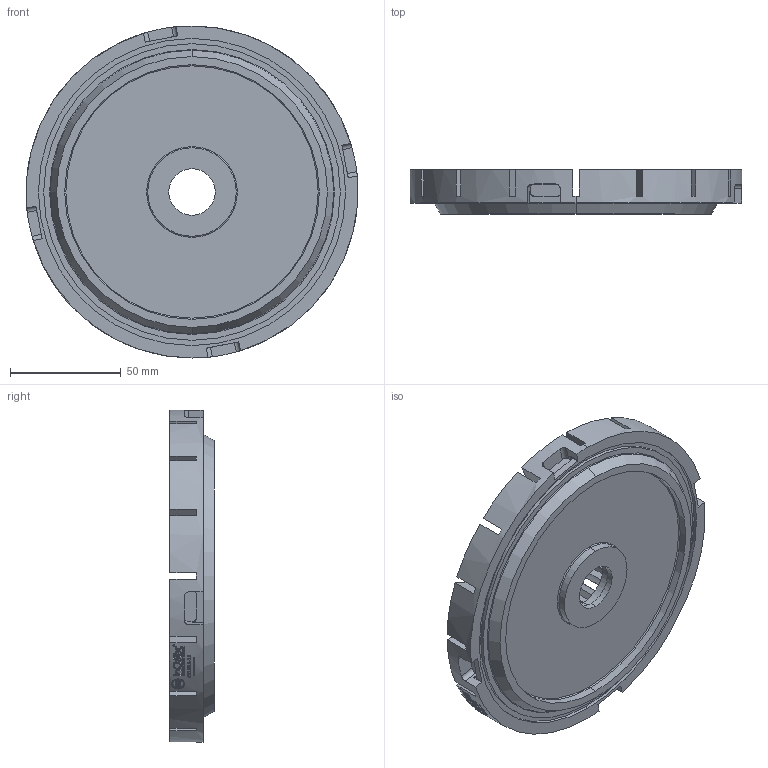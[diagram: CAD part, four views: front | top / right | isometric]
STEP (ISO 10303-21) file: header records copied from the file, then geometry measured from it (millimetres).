
FILE_DESCRIPTION (( 'STEP AP203' ), '1' );
FILE_NAME ('CR150 A-15.STEP', '2016-06-15T09:19:39', ( '' ), ( '' ), 'SwSTEP 2.0', 'SolidWorks 2016', '' );
FILE_SCHEMA (( 'CONFIG_CONTROL_DESIGN' ));
Products named in the file (1): CR150 A-15
Bounding box: 150 x 20 x 150 mm (x, y, z)
Volume: 239558.4 mm3; surface area: 70822.3 mm2
Topology: 1 solids, 1 shells, 1981 faces, 5641 edges, 3759 vertices
Faces by surface type: plane 1597, cylinder 374, torus 8, cone 2
Entity records: 65245 total; most frequent: CARTESIAN_POINT 17018, ORIENTED_EDGE 11282, DIRECTION 8674, EDGE_CURVE 5641, VERTEX_POINT 3759, LINE 3560, VECTOR 3560, AXIS2_PLACEMENT_3D 2557
